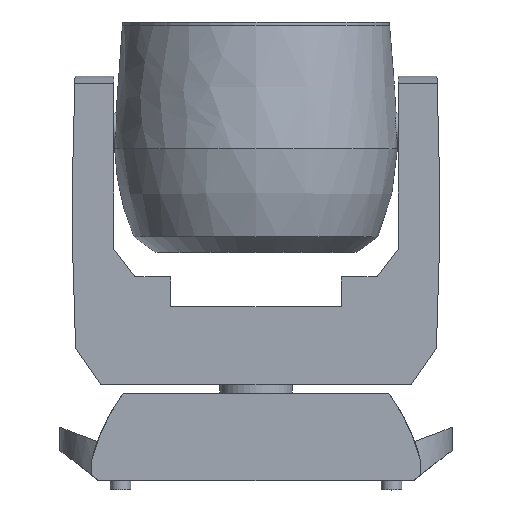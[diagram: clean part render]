
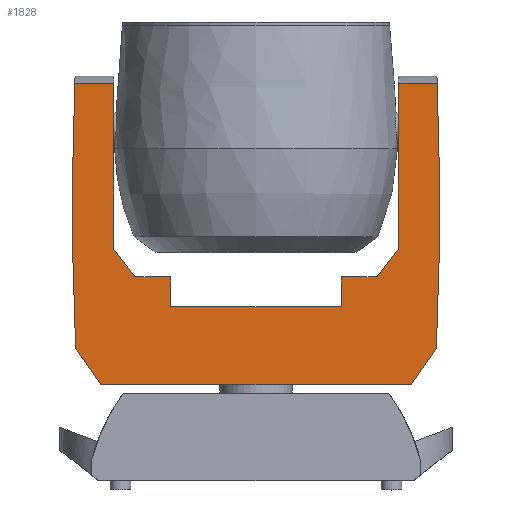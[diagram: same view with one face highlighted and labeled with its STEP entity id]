
A CAD part, top view. The second image highlights one B-rep face of the part: STEP entity #1828.
In plain terms, the highlighted planar face has unit normal (0, 0, 1).
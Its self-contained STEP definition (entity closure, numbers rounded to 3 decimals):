
#84=PLANE('',#2049);
#167=FACE_OUTER_BOUND('',#269,.T.);
#269=EDGE_LOOP('',(#1328,#1329,#1330,#1331,#1332,#1333,#1334,#1335,#1336,
#1337,#1338,#1339,#1340,#1341,#1342,#1343));
#369=LINE('',#2947,#556);
#373=LINE('',#2958,#560);
#375=LINE('',#2962,#562);
#381=LINE('',#2974,#568);
#383=LINE('',#2977,#570);
#386=LINE('',#2986,#573);
#388=LINE('',#3005,#575);
#389=LINE('',#3008,#576);
#390=LINE('',#3010,#577);
#391=LINE('',#3012,#578);
#392=LINE('',#3014,#579);
#393=LINE('',#3015,#580);
#394=LINE('',#3017,#581);
#395=LINE('',#3019,#582);
#556=VECTOR('',#2258,10.);
#560=VECTOR('',#2266,10.);
#562=VECTOR('',#2270,10.);
#568=VECTOR('',#2278,10.);
#570=VECTOR('',#2282,10.);
#573=VECTOR('',#2293,10.);
#575=VECTOR('',#2299,10.);
#576=VECTOR('',#2302,10.);
#577=VECTOR('',#2303,10.);
#578=VECTOR('',#2304,10.);
#579=VECTOR('',#2305,10.);
#580=VECTOR('',#2306,10.);
#581=VECTOR('',#2307,10.);
#582=VECTOR('',#2308,10.);
#754=CIRCLE('',#2045,2500.);
#756=CIRCLE('',#2050,2500.);
#808=VERTEX_POINT('',#2935);
#809=VERTEX_POINT('',#2946);
#813=VERTEX_POINT('',#2955);
#814=VERTEX_POINT('',#2957);
#815=VERTEX_POINT('',#2961);
#817=VERTEX_POINT('',#2967);
#820=VERTEX_POINT('',#2972);
#822=VERTEX_POINT('',#2983);
#824=VERTEX_POINT('',#2989);
#826=VERTEX_POINT('',#3003);
#827=VERTEX_POINT('',#3007);
#828=VERTEX_POINT('',#3009);
#829=VERTEX_POINT('',#3011);
#830=VERTEX_POINT('',#3013);
#831=VERTEX_POINT('',#3016);
#832=VERTEX_POINT('',#3018);
#996=EDGE_CURVE('',#808,#809,#369,.T.);
#1001=EDGE_CURVE('',#813,#814,#373,.T.);
#1003=EDGE_CURVE('',#809,#815,#375,.T.);
#1009=EDGE_CURVE('',#820,#817,#381,.T.);
#1011=EDGE_CURVE('',#815,#820,#383,.T.);
#1013=EDGE_CURVE('',#814,#808,#754,.T.);
#1016=EDGE_CURVE('',#817,#822,#386,.T.);
#1020=EDGE_CURVE('',#824,#826,#388,.T.);
#1021=EDGE_CURVE('',#826,#827,#389,.T.);
#1022=EDGE_CURVE('',#827,#828,#390,.T.);
#1023=EDGE_CURVE('',#828,#829,#391,.T.);
#1024=EDGE_CURVE('',#829,#830,#392,.T.);
#1025=EDGE_CURVE('',#830,#822,#393,.T.);
#1026=EDGE_CURVE('',#813,#831,#394,.T.);
#1027=EDGE_CURVE('',#831,#832,#395,.T.);
#1028=EDGE_CURVE('',#832,#824,#756,.T.);
#1328=ORIENTED_EDGE('',*,*,#1020,.T.);
#1329=ORIENTED_EDGE('',*,*,#1021,.T.);
#1330=ORIENTED_EDGE('',*,*,#1022,.T.);
#1331=ORIENTED_EDGE('',*,*,#1023,.T.);
#1332=ORIENTED_EDGE('',*,*,#1024,.T.);
#1333=ORIENTED_EDGE('',*,*,#1025,.T.);
#1334=ORIENTED_EDGE('',*,*,#1016,.F.);
#1335=ORIENTED_EDGE('',*,*,#1009,.F.);
#1336=ORIENTED_EDGE('',*,*,#1011,.F.);
#1337=ORIENTED_EDGE('',*,*,#1003,.F.);
#1338=ORIENTED_EDGE('',*,*,#996,.F.);
#1339=ORIENTED_EDGE('',*,*,#1013,.F.);
#1340=ORIENTED_EDGE('',*,*,#1001,.F.);
#1341=ORIENTED_EDGE('',*,*,#1026,.T.);
#1342=ORIENTED_EDGE('',*,*,#1027,.T.);
#1343=ORIENTED_EDGE('',*,*,#1028,.T.);
#1828=ADVANCED_FACE('',(#167),#84,.T.);
#2045=AXIS2_PLACEMENT_3D('',#2980,#2287,#2288);
#2049=AXIS2_PLACEMENT_3D('',#3006,#2300,#2301);
#2050=AXIS2_PLACEMENT_3D('',#3020,#2309,#2310);
#2258=DIRECTION('',(1.,0.,0.));
#2266=DIRECTION('',(-0.572,0.82,0.));
#2270=DIRECTION('',(0.,-1.,0.));
#2278=DIRECTION('',(1.,0.,0.));
#2282=DIRECTION('',(0.603,-0.798,0.));
#2287=DIRECTION('center_axis',(0.,0.,-1.));
#2288=DIRECTION('ref_axis',(-0.999,-0.044,0.));
#2293=DIRECTION('',(0.,-1.,0.));
#2299=DIRECTION('',(-1.,0.,0.));
#2300=DIRECTION('center_axis',(0.,0.,1.));
#2301=DIRECTION('ref_axis',(1.,0.,0.));
#2302=DIRECTION('',(0.,-1.,0.));
#2303=DIRECTION('',(-0.603,-0.798,0.));
#2304=DIRECTION('',(-1.,0.,0.));
#2305=DIRECTION('',(0.,-1.,0.));
#2306=DIRECTION('',(-1.,0.,0.));
#2307=DIRECTION('',(1.,0.,0.));
#2308=DIRECTION('',(0.572,0.82,0.));
#2309=DIRECTION('center_axis',(0.,0.,1.));
#2310=DIRECTION('ref_axis',(0.999,-0.044,0.));
#2935=CARTESIAN_POINT('',(-139.722,306.288,41.));
#2946=CARTESIAN_POINT('',(-109.5,306.288,41.));
#2947=CARTESIAN_POINT('',(0.,306.288,41.));
#2955=CARTESIAN_POINT('',(-119.652,74.,41.));
#2957=CARTESIAN_POINT('',(-139.07,101.81,41.));
#2958=CARTESIAN_POINT('',(-139.07,101.81,41.));
#2961=CARTESIAN_POINT('',(-109.5,178.338,41.));
#2962=CARTESIAN_POINT('',(-109.5,178.338,41.));
#2967=CARTESIAN_POINT('',(-65.902,157.098,41.));
#2972=CARTESIAN_POINT('',(-93.452,157.098,41.));
#2974=CARTESIAN_POINT('',(-65.902,157.098,41.));
#2977=CARTESIAN_POINT('',(-93.452,157.098,41.));
#2980=CARTESIAN_POINT('Origin',(2358.5,212.02,41.));
#2983=CARTESIAN_POINT('',(-65.902,134.,41.));
#2986=CARTESIAN_POINT('',(-65.902,157.098,41.));
#2989=CARTESIAN_POINT('',(139.722,306.288,41.));
#3003=CARTESIAN_POINT('',(109.5,306.288,41.));
#3005=CARTESIAN_POINT('',(0.,306.288,41.));
#3006=CARTESIAN_POINT('Origin',(70.75,193.,41.));
#3007=CARTESIAN_POINT('',(109.5,178.338,41.));
#3008=CARTESIAN_POINT('',(109.5,178.338,41.));
#3009=CARTESIAN_POINT('',(93.452,157.098,41.));
#3010=CARTESIAN_POINT('',(93.452,157.098,41.));
#3011=CARTESIAN_POINT('',(65.902,157.098,41.));
#3012=CARTESIAN_POINT('',(65.902,157.098,41.));
#3013=CARTESIAN_POINT('',(65.902,134.,41.));
#3014=CARTESIAN_POINT('',(65.902,157.098,41.));
#3015=CARTESIAN_POINT('',(-184.861,134.,41.));
#3016=CARTESIAN_POINT('',(119.652,74.,41.));
#3017=CARTESIAN_POINT('',(35.375,74.,41.));
#3018=CARTESIAN_POINT('',(139.07,101.81,41.));
#3019=CARTESIAN_POINT('',(139.07,101.81,41.));
#3020=CARTESIAN_POINT('Origin',(-2358.5,212.02,41.));
